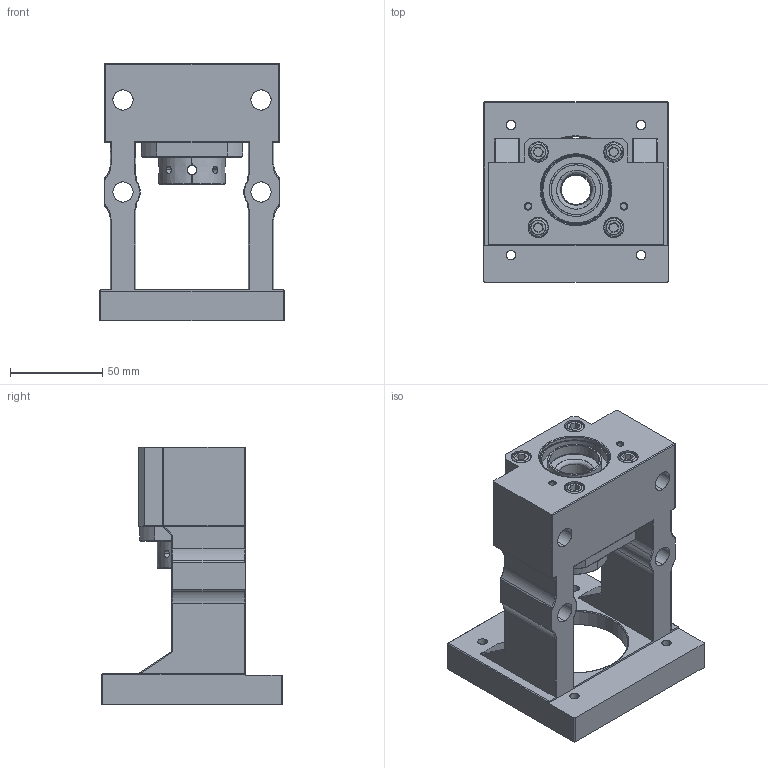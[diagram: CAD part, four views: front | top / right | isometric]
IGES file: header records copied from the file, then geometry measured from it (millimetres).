
Start section: SolidWorks IGES file using analytic representation for surfaces
Global section: file name: C:\Users\117\Desktop\1061208網站3D圖檔問題處理\傳動座\整合型\MBCS(F)\MBCS17\MBCS17-X.IGS,15HSolidWorks; native system: 2017; preprocessor: SolidWorks 2017; author: 117; date: 171228.155025; units: millimetre
Bounding box: 100 x 98 x 140 mm (x, y, z)
Surface area: 85732.9 mm2 (no closed solid volume)
Topology: 0 solids, 0 shells, 348 faces, 5634 edges, 5622 vertices
Faces by surface type: revolution 204, bspline 144
